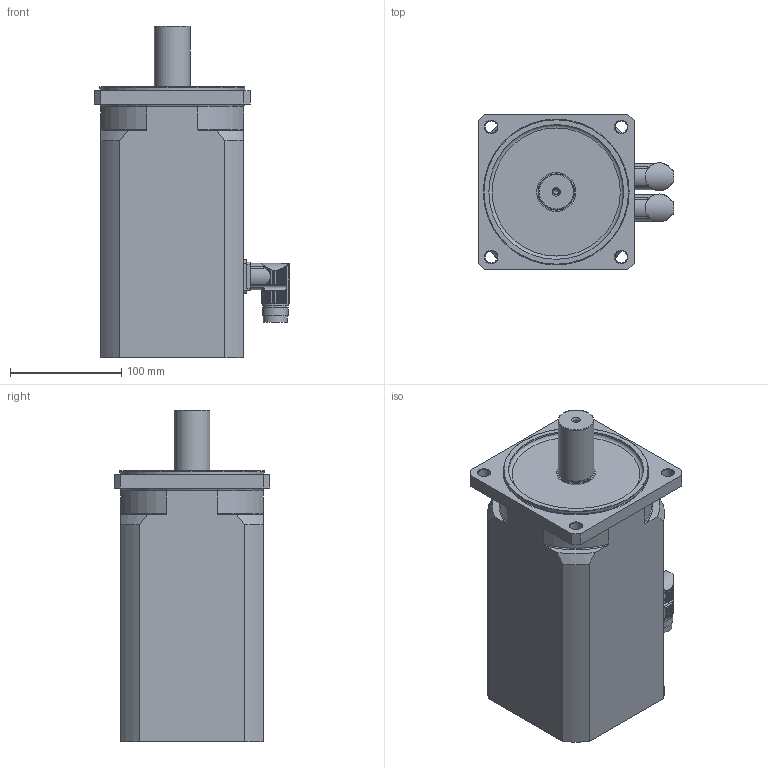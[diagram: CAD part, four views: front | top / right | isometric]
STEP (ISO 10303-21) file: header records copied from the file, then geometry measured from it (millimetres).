
FILE_DESCRIPTION(/* description */ (''),/* implementation_level */ '2;1');
FILE_NAME(/* name */ 'MR 7454-Ux-Nxxx-G##-A0D-M0',/* time_stamp */ '2007-07-13T09:50:00+01:00',/* author */ (''),/* organization */ ('ESR Pollmeier GmbH'),/* preprocessor_version */ 'ST-DEVELOPER v8',/* originating_system */ 'UNIGRAPHICS SOLUTIONS - UNIGRAPHICS 18.0',/* authorisation */ '');
FILE_SCHEMA (('AUTOMOTIVE_DESIGN { 1 2 10303 214 0 1 1 1 }'));
Length unit declared in the file: millimetre
Products named in the file (3): Winkelflanschdose_0; Rotor_SY5_0; MR7454-Ux-Nxxx-G##-A0D-M0_0
Assembly tree (3 placements, depth 2):
  MR7454-Ux-Nxxx-G##-A0D-M0_0
    Rotor_SY5_0
    Winkelflanschdose_0  x2
Bounding box: 175.49 x 140 x 298 mm (x, y, z)
Volume: 3938364.5 mm3; surface area: 183825 mm2
Topology: 4 solids, 4 shells, 410 faces, 1138 edges, 753 vertices
Faces by surface type: cylinder 315, plane 69, cone 13, torus 13
Full cylindrical faces by diameter (mm): 4.351 x1, 5.5 x1, 11 x4, 16 x2, 21 x2, 21.5 x2, 23 x4, 31.52 x1, 32 x1, 35 x1, 121 x1, 130 x1
Entity records: 8139 total; most frequent: CARTESIAN_POINT 2068, ORIENTED_EDGE 1262, DIRECTION 1198, EDGE_CURVE 631, AXIS2_PLACEMENT_3D 481, VERTEX_POINT 433, EDGE_LOOP 295, ADVANCED_FACE 246
